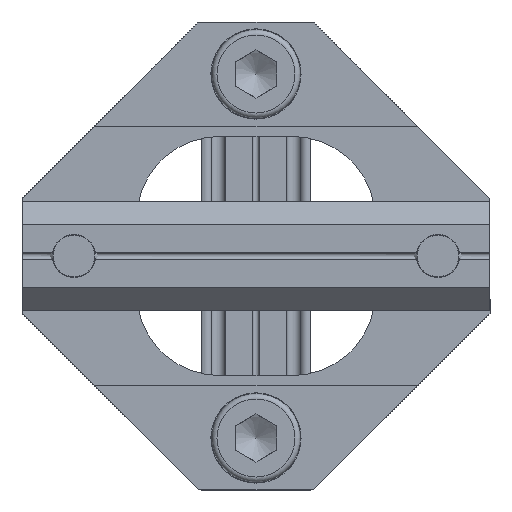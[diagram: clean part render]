
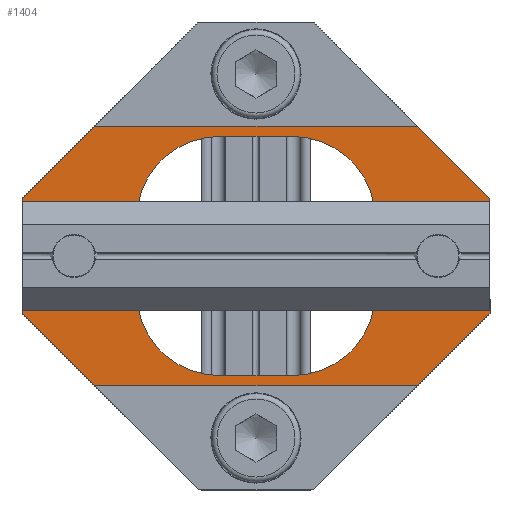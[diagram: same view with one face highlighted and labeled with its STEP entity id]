
A CAD part, front view. The second image highlights one B-rep face of the part: STEP entity #1404.
In plain terms, the highlighted planar face has unit normal (0, -1, 0).
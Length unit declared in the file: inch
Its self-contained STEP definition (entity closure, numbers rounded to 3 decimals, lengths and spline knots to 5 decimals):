
#94=FACE_BOUND('',#239,.T.);
#95=FACE_BOUND('',#240,.T.);
#96=FACE_BOUND('',#241,.T.);
#112=PLANE('',#1594);
#165=FACE_OUTER_BOUND('',#238,.T.);
#238=EDGE_LOOP('',(#1016,#1017,#1018,#1019,#1020,#1021,#1022,#1023));
#239=EDGE_LOOP('',(#1024));
#240=EDGE_LOOP('',(#1025));
#241=EDGE_LOOP('',(#1026,#1027,#1028,#1029,#1030,#1031,#1032,#1033));
#313=LINE('',#2166,#441);
#318=LINE('',#2180,#446);
#322=LINE('',#2192,#450);
#326=LINE('',#2204,#454);
#331=LINE('',#2218,#459);
#335=LINE('',#2227,#463);
#337=LINE('',#2231,#465);
#338=LINE('',#2233,#466);
#339=LINE('',#2234,#467);
#340=LINE('',#2236,#468);
#341=LINE('',#2238,#469);
#342=LINE('',#2239,#470);
#441=VECTOR('',#1745,0.3937);
#446=VECTOR('',#1758,0.3937);
#450=VECTOR('',#1770,0.3937);
#454=VECTOR('',#1782,0.3937);
#459=VECTOR('',#1795,0.3937);
#463=VECTOR('',#1801,0.3937);
#465=VECTOR('',#1805,0.3937);
#466=VECTOR('',#1806,0.3937);
#467=VECTOR('',#1807,0.3937);
#468=VECTOR('',#1808,0.3937);
#469=VECTOR('',#1809,0.3937);
#470=VECTOR('',#1810,0.3937);
#568=CIRCLE('',#1569,0.1085);
#572=CIRCLE('',#1575,0.1085);
#573=CIRCLE('',#1578,0.31496);
#575=CIRCLE('',#1582,0.31496);
#577=CIRCLE('',#1586,0.31496);
#579=CIRCLE('',#1590,0.31496);
#624=VERTEX_POINT('',#2148);
#628=VERTEX_POINT('',#2160);
#629=VERTEX_POINT('',#2164);
#630=VERTEX_POINT('',#2165);
#633=VERTEX_POINT('',#2173);
#635=VERTEX_POINT('',#2179);
#637=VERTEX_POINT('',#2185);
#639=VERTEX_POINT('',#2191);
#641=VERTEX_POINT('',#2197);
#643=VERTEX_POINT('',#2203);
#647=VERTEX_POINT('',#2215);
#648=VERTEX_POINT('',#2217);
#651=VERTEX_POINT('',#2224);
#652=VERTEX_POINT('',#2226);
#653=VERTEX_POINT('',#2230);
#654=VERTEX_POINT('',#2232);
#655=VERTEX_POINT('',#2235);
#656=VERTEX_POINT('',#2237);
#762=EDGE_CURVE('',#624,#624,#568,.T.);
#768=EDGE_CURVE('',#628,#628,#572,.T.);
#769=EDGE_CURVE('',#629,#630,#313,.T.);
#773=EDGE_CURVE('',#630,#633,#573,.T.);
#776=EDGE_CURVE('',#633,#635,#318,.T.);
#779=EDGE_CURVE('',#635,#637,#575,.T.);
#782=EDGE_CURVE('',#637,#639,#322,.T.);
#785=EDGE_CURVE('',#639,#641,#577,.T.);
#788=EDGE_CURVE('',#641,#643,#326,.T.);
#791=EDGE_CURVE('',#643,#629,#579,.T.);
#795=EDGE_CURVE('',#647,#648,#331,.T.);
#799=EDGE_CURVE('',#651,#652,#335,.T.);
#801=EDGE_CURVE('',#653,#651,#337,.T.);
#802=EDGE_CURVE('',#654,#653,#338,.T.);
#803=EDGE_CURVE('',#648,#654,#339,.T.);
#804=EDGE_CURVE('',#655,#647,#340,.T.);
#805=EDGE_CURVE('',#656,#655,#341,.T.);
#806=EDGE_CURVE('',#652,#656,#342,.T.);
#1016=ORIENTED_EDGE('',*,*,#801,.F.);
#1017=ORIENTED_EDGE('',*,*,#802,.F.);
#1018=ORIENTED_EDGE('',*,*,#803,.F.);
#1019=ORIENTED_EDGE('',*,*,#795,.F.);
#1020=ORIENTED_EDGE('',*,*,#804,.F.);
#1021=ORIENTED_EDGE('',*,*,#805,.F.);
#1022=ORIENTED_EDGE('',*,*,#806,.F.);
#1023=ORIENTED_EDGE('',*,*,#799,.F.);
#1024=ORIENTED_EDGE('',*,*,#762,.T.);
#1025=ORIENTED_EDGE('',*,*,#768,.T.);
#1026=ORIENTED_EDGE('',*,*,#769,.T.);
#1027=ORIENTED_EDGE('',*,*,#773,.T.);
#1028=ORIENTED_EDGE('',*,*,#776,.T.);
#1029=ORIENTED_EDGE('',*,*,#779,.T.);
#1030=ORIENTED_EDGE('',*,*,#782,.T.);
#1031=ORIENTED_EDGE('',*,*,#785,.T.);
#1032=ORIENTED_EDGE('',*,*,#788,.T.);
#1033=ORIENTED_EDGE('',*,*,#791,.T.);
#1404=ADVANCED_FACE('',(#165,#94,#95,#96),#112,.F.);
#1569=AXIS2_PLACEMENT_3D('',#2150,#1727,#1728);
#1575=AXIS2_PLACEMENT_3D('',#2162,#1741,#1742);
#1578=AXIS2_PLACEMENT_3D('',#2174,#1751,#1752);
#1582=AXIS2_PLACEMENT_3D('',#2186,#1763,#1764);
#1586=AXIS2_PLACEMENT_3D('',#2198,#1775,#1776);
#1590=AXIS2_PLACEMENT_3D('',#2209,#1787,#1788);
#1594=AXIS2_PLACEMENT_3D('',#2229,#1803,#1804);
#1727=DIRECTION('center_axis',(0.,1.,0.));
#1728=DIRECTION('ref_axis',(-1.,0.,0.));
#1741=DIRECTION('center_axis',(0.,1.,0.));
#1742=DIRECTION('ref_axis',(1.,0.,0.));
#1745=DIRECTION('',(-1.,0.,0.));
#1751=DIRECTION('center_axis',(0.,1.,0.));
#1752=DIRECTION('ref_axis',(0.,0.,-1.));
#1758=DIRECTION('',(0.,0.,1.));
#1763=DIRECTION('center_axis',(0.,1.,0.));
#1764=DIRECTION('ref_axis',(-1.,0.,0.));
#1770=DIRECTION('',(1.,0.,0.));
#1775=DIRECTION('center_axis',(0.,1.,0.));
#1776=DIRECTION('ref_axis',(0.,0.,1.));
#1782=DIRECTION('',(0.,0.,-1.));
#1787=DIRECTION('center_axis',(0.,1.,0.));
#1788=DIRECTION('ref_axis',(1.,0.,0.));
#1795=DIRECTION('',(1.,0.,0.));
#1801=DIRECTION('',(-1.,0.,0.));
#1803=DIRECTION('center_axis',(0.,1.,0.));
#1804=DIRECTION('ref_axis',(0.,0.,1.));
#1805=DIRECTION('',(-0.707,0.,-0.707));
#1806=DIRECTION('',(0.,0.,-1.));
#1807=DIRECTION('',(0.707,0.,-0.707));
#1808=DIRECTION('',(0.707,0.,0.707));
#1809=DIRECTION('',(0.,0.,1.));
#1810=DIRECTION('',(-0.707,0.,0.707));
#2148=CARTESIAN_POINT('',(0.79748,-0.07874,0.));
#2150=CARTESIAN_POINT('Origin',(0.68898,-0.07874,0.));
#2160=CARTESIAN_POINT('',(-0.79748,-0.07874,0.));
#2162=CARTESIAN_POINT('Origin',(-0.68898,-0.07874,0.));
#2164=CARTESIAN_POINT('',(0.1378,-0.07874,-0.45276));
#2165=CARTESIAN_POINT('',(-0.1378,-0.07874,-0.45276));
#2166=CARTESIAN_POINT('',(-0.0689,-0.07874,-0.45276));
#2173=CARTESIAN_POINT('',(-0.45276,-0.07874,-0.1378));
#2174=CARTESIAN_POINT('Origin',(-0.1378,-0.07874,-0.1378));
#2179=CARTESIAN_POINT('',(-0.45276,-0.07874,0.1378));
#2180=CARTESIAN_POINT('',(-0.45276,-0.07874,0.0689));
#2185=CARTESIAN_POINT('',(-0.1378,-0.07874,0.45276));
#2186=CARTESIAN_POINT('Origin',(-0.1378,-0.07874,0.1378));
#2191=CARTESIAN_POINT('',(0.1378,-0.07874,0.45276));
#2192=CARTESIAN_POINT('',(0.0689,-0.07874,0.45276));
#2197=CARTESIAN_POINT('',(0.45276,-0.07874,0.1378));
#2198=CARTESIAN_POINT('Origin',(0.1378,-0.07874,0.1378));
#2203=CARTESIAN_POINT('',(0.45276,-0.07874,-0.1378));
#2204=CARTESIAN_POINT('',(0.45276,-0.07874,-0.0689));
#2209=CARTESIAN_POINT('Origin',(0.1378,-0.07874,-0.1378));
#2215=CARTESIAN_POINT('',(-0.61024,-0.07874,0.49213));
#2217=CARTESIAN_POINT('',(0.61024,-0.07874,0.49213));
#2218=CARTESIAN_POINT('',(-0.61024,-0.07874,0.49213));
#2224=CARTESIAN_POINT('',(0.61024,-0.07874,-0.49213));
#2226=CARTESIAN_POINT('',(-0.61024,-0.07874,-0.49213));
#2227=CARTESIAN_POINT('',(0.61024,-0.07874,-0.49213));
#2229=CARTESIAN_POINT('Origin',(0.,-0.07874,
0.));
#2230=CARTESIAN_POINT('',(0.88583,-0.07874,-0.21654));
#2231=CARTESIAN_POINT('',(0.7185,-0.07874,-0.38386));
#2232=CARTESIAN_POINT('',(0.88583,-0.07874,0.21654));
#2233=CARTESIAN_POINT('',(0.88583,-0.07874,0.10827));
#2234=CARTESIAN_POINT('',(0.38386,-0.07874,0.7185));
#2235=CARTESIAN_POINT('',(-0.88583,-0.07874,0.21654));
#2236=CARTESIAN_POINT('',(-0.7185,-0.07874,0.38386));
#2237=CARTESIAN_POINT('',(-0.88583,-0.07874,-0.21654));
#2238=CARTESIAN_POINT('',(-0.88583,-0.07874,-0.10827));
#2239=CARTESIAN_POINT('',(-0.38386,-0.07874,-0.7185));
